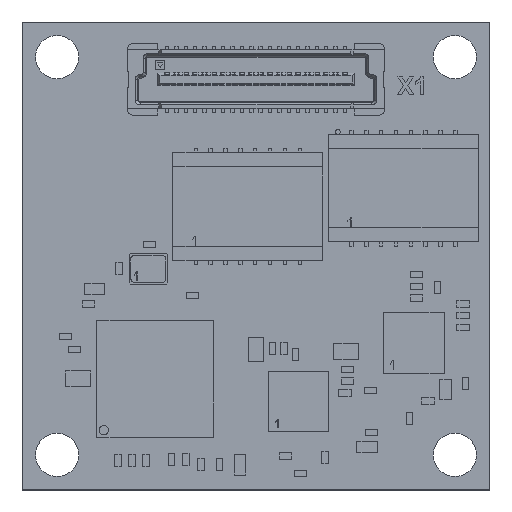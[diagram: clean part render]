
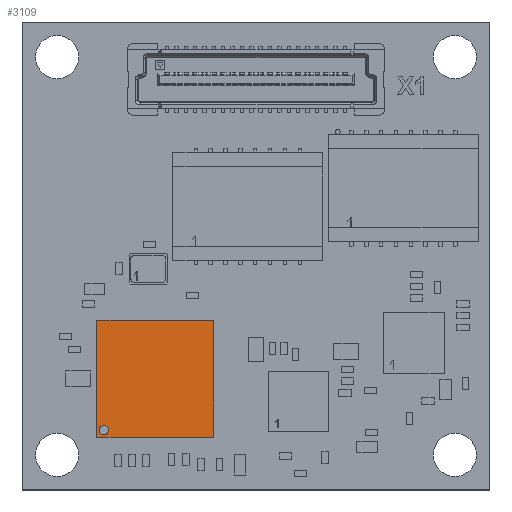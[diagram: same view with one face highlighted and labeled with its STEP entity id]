
A CAD part, top view. The second image highlights one B-rep face of the part: STEP entity #3109.
In plain terms, the highlighted planar face has unit normal (0, 0, 1).
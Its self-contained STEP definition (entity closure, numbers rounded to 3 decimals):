
#3109=ADVANCED_FACE('',(#13628,#13629),#4656,.T.);
#4656=PLANE('',#32700);
#8644=LINE('',#48239,#12875);
#8645=LINE('',#48242,#12876);
#8646=LINE('',#48244,#12877);
#8647=LINE('',#48246,#12878);
#12875=VECTOR('',#39446,1.);
#12876=VECTOR('',#39447,1.);
#12877=VECTOR('',#39448,1.);
#12878=VECTOR('',#39449,1.);
#13628=FACE_BOUND('',#15131,.T.);
#13629=FACE_BOUND('',#15132,.T.);
#15131=EDGE_LOOP('',(#22844));
#15132=EDGE_LOOP('',(#22845,#22846,#22847,#22848));
#22844=ORIENTED_EDGE('',*,*,#30720,.F.);
#22845=ORIENTED_EDGE('',*,*,#30721,.T.);
#22846=ORIENTED_EDGE('',*,*,#30722,.T.);
#22847=ORIENTED_EDGE('',*,*,#30723,.T.);
#22848=ORIENTED_EDGE('',*,*,#30724,.T.);
#26619=VERTEX_POINT('',#48238);
#26620=VERTEX_POINT('',#48240);
#26621=VERTEX_POINT('',#48241);
#26622=VERTEX_POINT('',#48243);
#26623=VERTEX_POINT('',#48245);
#30720=EDGE_CURVE('',#26619,#26619,#31321,.T.);
#30721=EDGE_CURVE('',#26620,#26621,#8644,.T.);
#30722=EDGE_CURVE('',#26621,#26622,#8645,.T.);
#30723=EDGE_CURVE('',#26622,#26623,#8646,.T.);
#30724=EDGE_CURVE('',#26623,#26620,#8647,.T.);
#31321=CIRCLE('',#32699,0.4);
#32699=AXIS2_PLACEMENT_3D('',#48237,#39444,#39445);
#32700=AXIS2_PLACEMENT_3D('',#48247,#39450,#39451);
#39444=DIRECTION('',(0.,0.,1.));
#39445=DIRECTION('',(0.,1.,0.));
#39446=DIRECTION('',(1.,0.,0.));
#39447=DIRECTION('',(0.,1.,0.));
#39448=DIRECTION('',(-1.,0.,0.));
#39449=DIRECTION('',(0.,-1.,0.));
#39450=DIRECTION('',(0.,0.,1.));
#39451=DIRECTION('',(0.,-1.,0.));
#48237=CARTESIAN_POINT('',(7.,5.1,3.068));
#48238=CARTESIAN_POINT('',(7.,5.5,3.068));
#48239=CARTESIAN_POINT('',(6.4,4.5,3.068));
#48240=CARTESIAN_POINT('',(6.4,4.5,3.068));
#48241=CARTESIAN_POINT('',(16.4,4.5,3.068));
#48242=CARTESIAN_POINT('',(16.4,4.5,3.068));
#48243=CARTESIAN_POINT('',(16.4,14.5,3.068));
#48244=CARTESIAN_POINT('',(16.4,14.5,3.068));
#48245=CARTESIAN_POINT('',(6.4,14.5,3.068));
#48246=CARTESIAN_POINT('',(6.4,14.5,3.068));
#48247=CARTESIAN_POINT('',(11.4,9.5,3.068));
